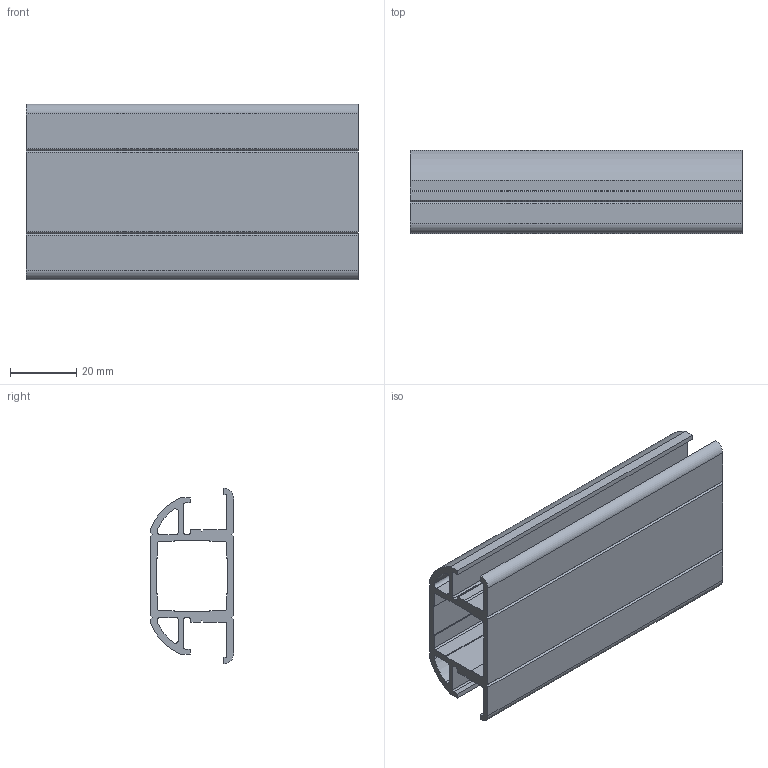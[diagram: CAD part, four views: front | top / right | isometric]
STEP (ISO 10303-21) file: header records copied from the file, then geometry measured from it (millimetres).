
FILE_DESCRIPTION (( 'STEP AP203' ), '1' );
FILE_NAME ('B25022A.STEP', '2017-03-22T11:28:04', ( 'Localadmin' ), ( 'Microsoft' ), 'SwSTEP 2.0', 'SolidWorks 2016', '' );
FILE_SCHEMA (( 'CONFIG_CONTROL_DESIGN' ));
Length unit declared in the file: millimetre
Products named in the file (1): B25022A
Bounding box: 100 x 25 x 53 mm (x, y, z)
Volume: 36022.1 mm3; surface area: 33901.2 mm2
Topology: 1 solids, 1 shells, 95 faces, 279 edges, 186 vertices
Faces by surface type: plane 66, cylinder 29
Entity records: 3240 total; most frequent: CARTESIAN_POINT 561, ORIENTED_EDGE 558, DIRECTION 529, EDGE_CURVE 279, VECTOR 221, LINE 221, VERTEX_POINT 186, AXIS2_PLACEMENT_3D 154
